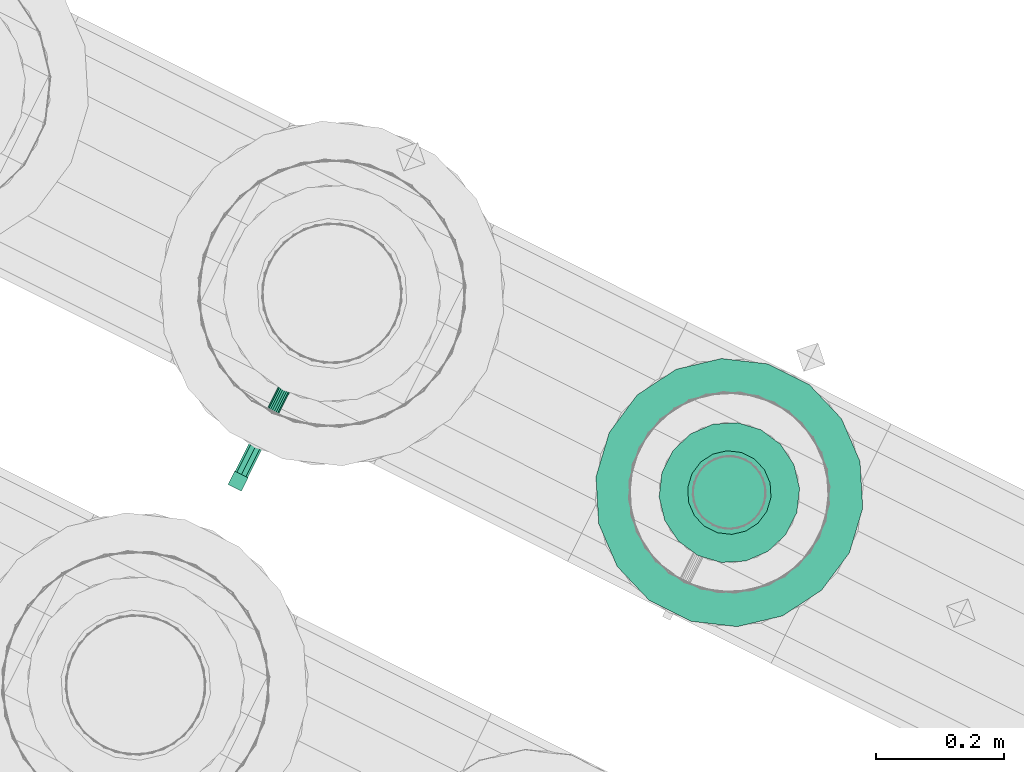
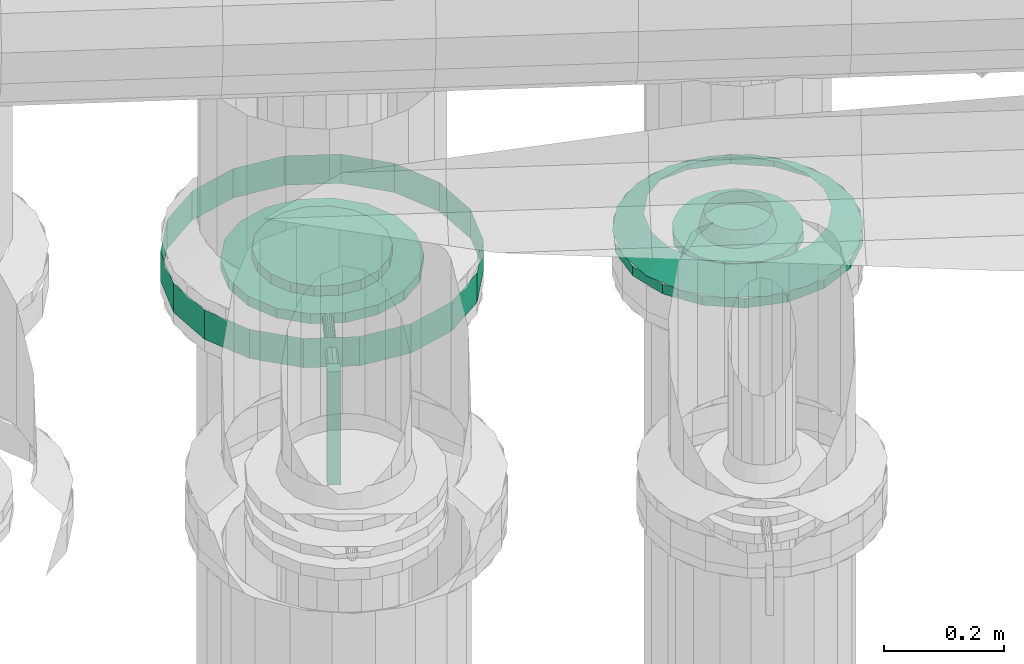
# One storey, part 125 of 152: 1 flow controller, 1 flow fitting.
"""IFC2X3 building model written with IfcOpenShell, lengths in metres."""

from ifc_helpers import new_model, si_unit, derived_unit, direction, frame, origin, place, context, subcontext, project, spatial, face_set, surface_model, source, transform, mapped, material, type_object, type_shapes, element, save


model = new_model("IFC2X3")

# Units and contexts
model_context = context("Model", 3, precision=5.2338327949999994e-05, world=origin(), true_north=direction((0.0, 1.0)))
body_context = subcontext(model_context, "Body", "Model", "MODEL_VIEW")
ifc_project = project(units=[si_unit("LENGTHUNIT", "METRE"), si_unit("AREAUNIT", "SQUARE_METRE"), si_unit("VOLUMEUNIT", "CUBIC_METRE"), si_unit("MASSUNIT", "GRAM", prefix="KILO"), si_unit("PLANEANGLEUNIT", "RADIAN"), derived_unit("THERMALTRANSMITTANCEUNIT", [(si_unit("MASSUNIT", "GRAM", prefix="KILO"), 1), (si_unit("THERMODYNAMICTEMPERATUREUNIT", "KELVIN"), -1), (si_unit("TIMEUNIT", "SECOND"), -3)])], contexts=[model_context])

# Site, building, storey
site_placement = place(None, frame((0.0, 0.0, 0.0), z_axis=(0.0, 0.0, 1.0), x_axis=(0.8939966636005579, -0.4480736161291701, 0.0)))
site = spatial("IfcSite", under=ifc_project, at=site_placement, Name="Default", CompositionType="ELEMENT")
building_placement = place(site_placement, origin())
building = spatial("IfcBuilding", under=site, at=building_placement, CompositionType="ELEMENT")
storey_placement = place(building_placement, frame((0.0, 0.0, 2.7499999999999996)))
storey = spatial("IfcBuildingStorey", under=building, at=storey_placement, Name="1. Obergeschoss", CompositionType="ELEMENT", Elevation=2.7499999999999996)

# Flow fitting
ifc_material = material(Name="IfcSurfaceStyle #1741")
distribution_element_type_1 = type_object("IfcDistributionElementType", Name="Flansch 247248:Flansch 247248", material=ifc_material)
shared_shape_1 = source(origin(), body_context, "Body", "SurfaceModel", [
    surface_model("IfcFaceBasedSurfaceModel", [(7.225468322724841, 8.012208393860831, 5.034622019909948), (7.228914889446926, 8.031754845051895, 5.034622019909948), (7.221068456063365, 8.034610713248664, 5.002622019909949), (7.217118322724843, 8.012208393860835, 5.002622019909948), (7.238838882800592, 8.048943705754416, 5.034622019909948), (7.232442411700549, 8.0543109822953, 5.002622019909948), (7.254043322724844, 8.06170174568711, 5.034622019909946), (7.249868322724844, 8.068933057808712, 5.002622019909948), (7.272694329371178, 8.06849015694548, 5.034622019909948), (7.271244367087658, 8.076713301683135, 5.002622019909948), (7.292542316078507, 8.06849015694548, 5.034622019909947), (7.293992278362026, 8.076713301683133, 5.002622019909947), (7.311193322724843, 8.061701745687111, 5.034622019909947), (7.315368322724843, 8.068933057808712, 5.002622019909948), (7.3263977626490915, 8.04894370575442, 5.034622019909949), (7.332794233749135, 8.054310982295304, 5.002622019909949), (7.336321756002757, 8.031754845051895, 5.034622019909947), (7.344168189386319, 8.034610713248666, 5.002622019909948), (7.33976832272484, 8.012208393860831, 5.034622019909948), (7.34811832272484, 8.012208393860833, 5.002622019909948), (7.336321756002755, 7.99266194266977, 5.034622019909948), (7.344168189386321, 7.989806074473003, 5.002622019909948), (7.326397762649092, 7.975473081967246, 5.034622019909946), (7.332794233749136, 7.970105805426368, 5.002622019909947), (7.311193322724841, 7.962715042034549, 5.034622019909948), (7.31536832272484, 7.955483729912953, 5.002622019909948), (7.292542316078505, 7.955926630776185, 5.034622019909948), (7.293992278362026, 7.9477034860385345, 5.002622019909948), (7.272694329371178, 7.955926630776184, 5.034622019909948), (7.27124436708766, 7.9477034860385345, 5.002622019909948), (7.2540433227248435, 7.962715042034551, 5.034622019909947), (7.249868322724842, 7.955483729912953, 5.002622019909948), (7.238838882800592, 7.975473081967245, 5.034622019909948), (7.232442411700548, 7.970105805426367, 5.002622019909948), (7.228914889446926, 7.99266194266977, 5.034622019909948), (7.221068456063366, 7.989806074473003, 5.002622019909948), (7.282618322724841, 7.902208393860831, 5.002622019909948), (7.244996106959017, 7.908842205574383, 5.002622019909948), (7.244996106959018, 7.9088422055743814, 4.982622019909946), (7.282618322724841, 7.902208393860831, 4.982622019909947), (7.211911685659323, 7.927943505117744, 5.002622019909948), (7.211911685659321, 7.927943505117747, 4.982622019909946), (7.1873555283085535, 7.957208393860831, 5.002622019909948), (7.1873555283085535, 7.957208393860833, 4.982622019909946), (7.1742894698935, 7.9931070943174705, 5.002622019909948), (7.1742894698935, 7.993107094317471, 4.982622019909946), (7.174289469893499, 8.031309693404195, 5.002622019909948), (7.174289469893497, 8.031309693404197, 4.982622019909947), (7.1873555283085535, 8.067208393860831, 5.002622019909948), (7.187355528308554, 8.067208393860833, 4.9826220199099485), (7.211911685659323, 8.09647328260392, 5.002622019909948), (7.211911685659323, 8.096473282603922, 4.982622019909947), (7.244996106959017, 8.115574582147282, 5.002622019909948), (7.244996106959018, 8.115574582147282, 4.982622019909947), (7.282618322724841, 8.122208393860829, 5.002622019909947), (7.282618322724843, 8.12220839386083, 4.982622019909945), (7.320240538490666, 8.115574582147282, 5.002622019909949), (7.320240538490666, 8.115574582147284, 4.982622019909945), (7.353324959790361, 8.09647328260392, 5.002622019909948), (7.353324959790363, 8.096473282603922, 4.982622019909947), (7.37788111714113, 8.067208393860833, 5.002622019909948), (7.377881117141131, 8.067208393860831, 4.9826220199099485), (7.390947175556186, 8.031309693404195, 5.002622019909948), (7.390947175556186, 8.031309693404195, 4.982622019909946), (7.390947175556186, 7.993107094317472, 5.002622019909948), (7.390947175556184, 7.993107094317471, 4.982622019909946), (7.377881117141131, 7.9572083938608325, 5.002622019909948), (7.37788111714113, 7.957208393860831, 4.982622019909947), (7.353324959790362, 7.927943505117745, 5.002622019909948), (7.353324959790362, 7.927943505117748, 4.982622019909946), (7.320240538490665, 7.908842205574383, 5.002622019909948), (7.320240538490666, 7.908842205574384, 4.9826220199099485), (7.282618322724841, 8.012208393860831, 5.002622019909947), (7.125468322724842, 8.012208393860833, 5.034622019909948), (7.134945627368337, 8.065956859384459, 5.034622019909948), (7.0852828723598, 8.084032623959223, 5.002622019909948), (7.07261832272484, 8.012208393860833, 5.002622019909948), (7.162234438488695, 8.113222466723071, 5.034622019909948), (7.121748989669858, 8.147193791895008, 5.002622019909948), (7.204043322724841, 8.148304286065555, 5.034622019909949), (7.177618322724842, 8.194073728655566, 5.00262201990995), (7.255329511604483, 8.1669709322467, 5.034622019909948), (7.246152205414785, 8.219018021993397, 5.002622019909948), (7.309907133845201, 8.1669709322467, 5.034622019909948), (7.3190844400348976, 8.219018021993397, 5.002622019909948), (7.361193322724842, 8.148304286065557, 5.034622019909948), (7.387618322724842, 8.194073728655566, 5.002622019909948), (7.4030022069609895, 8.113222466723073, 5.034622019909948), (7.443487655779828, 8.147193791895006, 5.002622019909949), (7.4302910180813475, 8.065956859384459, 5.034622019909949), (7.479953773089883, 8.084032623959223, 5.002622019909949), (7.4397683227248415, 8.012208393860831, 5.034622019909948), (7.492618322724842, 8.012208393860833, 5.002622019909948), (7.430291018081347, 7.9584599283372, 5.034622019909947), (7.479953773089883, 7.940384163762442, 5.002622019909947), (7.4030022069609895, 7.911194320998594, 5.034622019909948), (7.443487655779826, 7.87722299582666, 5.002622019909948), (7.361193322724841, 7.876112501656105, 5.034622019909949), (7.387618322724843, 7.830343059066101, 5.002622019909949), (7.309907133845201, 7.857445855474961, 5.034622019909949), (7.3190844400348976, 7.805398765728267, 5.002622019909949), (7.255329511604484, 7.857445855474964, 5.034622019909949), (7.246152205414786, 7.805398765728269, 5.002622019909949), (7.204043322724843, 7.876112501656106, 5.034622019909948), (7.177618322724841, 7.830343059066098, 5.002622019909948), (7.162234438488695, 7.91119432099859, 5.034622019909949), (7.121748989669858, 7.877222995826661, 5.002622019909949), (7.134945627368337, 7.958459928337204, 5.034622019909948), (7.085282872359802, 7.940384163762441, 5.002622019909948), (7.282618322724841, 7.802208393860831, 5.002622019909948), (7.210794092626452, 7.814872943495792, 5.002622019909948), (7.210794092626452, 7.814872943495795, 4.982622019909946), (7.282618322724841, 7.802208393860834, 4.982622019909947), (7.14763292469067, 7.851339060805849, 5.002622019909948), (7.14763292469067, 7.851339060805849, 4.982622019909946), (7.100752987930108, 7.907208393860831, 5.002622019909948), (7.100752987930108, 7.907208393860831, 4.982622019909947), (7.075808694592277, 7.975742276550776, 5.002622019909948), (7.07580869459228, 7.975742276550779, 4.9826220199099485), (7.075808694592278, 8.048674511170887, 5.002622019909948), (7.075808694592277, 8.048674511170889, 4.982622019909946), (7.100752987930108, 8.117208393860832, 5.002622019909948), (7.100752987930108, 8.117208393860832, 4.982622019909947), (7.147632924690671, 8.17307772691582, 5.002622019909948), (7.147632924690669, 8.173077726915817, 4.982622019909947), (7.210794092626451, 8.209543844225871, 5.002622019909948), (7.210794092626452, 8.209543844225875, 4.982622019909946), (7.282618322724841, 8.222208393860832, 5.002622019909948), (7.282618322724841, 8.222208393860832, 4.982622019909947), (7.354442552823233, 8.209543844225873, 5.002622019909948), (7.354442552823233, 8.209543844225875, 4.982622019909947), (7.4176037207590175, 8.173077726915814, 5.002622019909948), (7.417603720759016, 8.173077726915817, 4.982622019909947), (7.464483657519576, 8.117208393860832, 5.002622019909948), (7.464483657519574, 8.117208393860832, 4.9826220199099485), (7.489427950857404, 8.048674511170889, 5.002622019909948), (7.489427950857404, 8.048674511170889, 4.982622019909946), (7.4894279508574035, 7.975742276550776, 5.002622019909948), (7.489427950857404, 7.975742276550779, 4.982622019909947), (7.464483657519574, 7.907208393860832, 5.002622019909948), (7.464483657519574, 7.907208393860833, 4.982622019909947), (7.417603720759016, 7.851339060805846, 5.002622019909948), (7.4176037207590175, 7.851339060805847, 4.982622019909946), (7.354442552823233, 7.81487294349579, 5.002622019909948), (7.3544425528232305, 7.814872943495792, 4.982622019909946)], [face_set([[[0, 1, 2, 3]], [[1, 4, 5, 2]], [[4, 6, 7, 5]], [[6, 8, 9, 7]], [[8, 10, 11, 9]], [[10, 12, 13, 11]], [[12, 14, 15, 13]], [[14, 16, 17, 15]], [[16, 18, 19, 17]], [[18, 20, 21, 19]], [[20, 22, 23, 21]], [[22, 24, 25, 23]], [[24, 26, 27, 25]], [[26, 28, 29, 27]], [[28, 30, 31, 29]], [[30, 32, 33, 31]], [[32, 34, 35, 33]], [[34, 0, 3, 35]], [[36, 37, 38, 39]], [[37, 40, 41, 38]], [[40, 42, 43, 41]], [[42, 44, 45, 43]], [[44, 46, 47, 45]], [[46, 48, 49, 47]], [[48, 50, 51, 49]], [[50, 52, 53, 51]], [[52, 54, 55, 53]], [[54, 56, 57, 55]], [[56, 58, 59, 57]], [[58, 60, 61, 59]], [[60, 62, 63, 61]], [[62, 64, 65, 63]], [[64, 66, 67, 65]], [[66, 68, 69, 67]], [[68, 70, 71, 69]], [[70, 36, 39, 71]], [[72, 37, 36]], [[72, 40, 37]], [[72, 42, 40]], [[72, 44, 42]], [[72, 46, 44]], [[72, 48, 46]], [[72, 50, 48]], [[72, 52, 50]], [[72, 54, 52]], [[72, 56, 54]], [[72, 58, 56]], [[72, 60, 58]], [[72, 62, 60]], [[72, 64, 62]], [[72, 66, 64]], [[72, 68, 66]], [[72, 70, 68]], [[72, 36, 70]], [[73, 74, 75, 76]], [[74, 77, 78, 75]], [[77, 79, 80, 78]], [[79, 81, 82, 80]], [[81, 83, 84, 82]], [[83, 85, 86, 84]], [[85, 87, 88, 86]], [[87, 89, 90, 88]], [[89, 91, 92, 90]], [[91, 93, 94, 92]], [[93, 95, 96, 94]], [[95, 97, 98, 96]], [[97, 99, 100, 98]], [[99, 101, 102, 100]], [[101, 103, 104, 102]], [[103, 105, 106, 104]], [[105, 107, 108, 106]], [[107, 73, 76, 108]], [[109, 110, 111, 112]], [[110, 113, 114, 111]], [[113, 115, 116, 114]], [[115, 117, 118, 116]], [[117, 119, 120, 118]], [[119, 121, 122, 120]], [[121, 123, 124, 122]], [[123, 125, 126, 124]], [[125, 127, 128, 126]], [[127, 129, 130, 128]], [[129, 131, 132, 130]], [[131, 133, 134, 132]], [[133, 135, 136, 134]], [[135, 137, 138, 136]], [[137, 139, 140, 138]], [[139, 141, 142, 140]], [[141, 143, 144, 142]], [[143, 109, 112, 144]]])]),
])
type_shapes(distribution_element_type_1, [shared_shape_1])
flow_fitting_placement = place(storey_placement, frame((0.0, 0.0, -2.7499999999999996)))
element("IfcFlowFitting", 1, at=flow_fitting_placement, inside=storey, type_object=distribution_element_type_1, material=ifc_material, Name="Flansch", ObjectType="Flansch", context=body_context, shape_type="MappedRepresentation", body=[
    mapped(shared_shape_1, transform((0.0, 0.0, 0.0), scale=1.0)),
])

# Flow controller
distribution_element_type_2 = type_object("IfcDistributionElementType", Name="Zwischenflanschklappe 247271:Zwischenflanschklappe 247271", material=ifc_material)
shared_shape_2 = source(origin(), body_context, "Body", "SurfaceModel", [
    surface_model("IfcFaceBasedSurfaceModel", [(6.576064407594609, 7.6957083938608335, 4.741522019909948), (6.576064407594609, 7.6957083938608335, 4.9723720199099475), (6.59956440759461, 7.6957083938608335, 4.9723720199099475), (6.59956440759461, 7.6957083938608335, 4.741522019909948), (6.59956440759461, 7.672208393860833, 4.9723720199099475), (6.59956440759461, 7.672208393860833, 4.741522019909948), (6.576064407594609, 7.672208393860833, 4.9723720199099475), (6.576064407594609, 7.672208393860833, 4.741522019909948), (6.705314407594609, 8.012208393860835, 4.930622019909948), (6.698228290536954, 8.0523957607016, 4.930622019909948), (6.698228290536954, 8.0523957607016, 4.9506220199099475), (6.705314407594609, 8.012208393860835, 4.9506220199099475), (6.677824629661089, 8.087735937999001, 4.930622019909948), (6.677824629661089, 8.087735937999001, 4.9506220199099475), (6.646564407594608, 8.113966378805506, 4.930622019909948), (6.646564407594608, 8.113966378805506, 4.9506220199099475), (6.608218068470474, 8.127923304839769, 4.930622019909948), (6.608218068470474, 8.127923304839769, 4.9506220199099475), (6.567410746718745, 8.127923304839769, 4.930622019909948), (6.567410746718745, 8.127923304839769, 4.9506220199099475), (6.529064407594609, 8.113966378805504, 4.930622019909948), (6.529064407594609, 8.113966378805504, 4.9506220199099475), (6.497804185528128, 8.087735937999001, 4.930622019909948), (6.497804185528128, 8.087735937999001, 4.9506220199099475), (6.477400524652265, 8.0523957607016, 4.930622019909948), (6.477400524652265, 8.0523957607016, 4.9506220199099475), (6.47031440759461, 8.012208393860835, 4.930622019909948), (6.47031440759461, 8.012208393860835, 4.9506220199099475), (6.477400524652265, 7.972021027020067, 4.930622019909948), (6.477400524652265, 7.972021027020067, 4.9506220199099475), (6.497804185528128, 7.9366808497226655, 4.930622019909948), (6.497804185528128, 7.9366808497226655, 4.9506220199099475), (6.529064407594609, 7.910450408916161, 4.930622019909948), (6.529064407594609, 7.910450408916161, 4.9506220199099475), (6.567410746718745, 7.896493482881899, 4.930622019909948), (6.567410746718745, 7.896493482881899, 4.9506220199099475), (6.608218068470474, 7.896493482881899, 4.930622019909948), (6.608218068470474, 7.896493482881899, 4.9506220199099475), (6.646564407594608, 7.910450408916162, 4.930622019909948), (6.646564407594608, 7.910450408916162, 4.9506220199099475), (6.677824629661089, 7.9366808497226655, 4.930622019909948), (6.677824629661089, 7.9366808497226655, 4.9506220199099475), (6.698228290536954, 7.972021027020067, 4.930622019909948), (6.698228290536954, 7.972021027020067, 4.9506220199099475), (6.587814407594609, 8.012208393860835, 4.930622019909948), (6.587814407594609, 8.012208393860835, 4.9506220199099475), (6.757814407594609, 8.012208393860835, 4.9506220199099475), (6.7475621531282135, 8.070351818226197, 4.9506220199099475), (6.7475621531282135, 8.070351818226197, 4.970622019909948), (6.757814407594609, 8.012208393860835, 4.970622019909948), (6.718041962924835, 8.121482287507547, 4.9506220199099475), (6.718041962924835, 8.121482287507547, 4.970622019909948), (6.6728144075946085, 8.159432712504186, 4.9506220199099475), (6.6728144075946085, 8.159432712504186, 4.970622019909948), (6.617334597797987, 8.179625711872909, 4.9506220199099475), (6.617334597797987, 8.179625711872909, 4.970622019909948), (6.558294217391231, 8.179625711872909, 4.9506220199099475), (6.558294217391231, 8.179625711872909, 4.970622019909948), (6.502814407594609, 8.159432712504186, 4.9506220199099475), (6.502814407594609, 8.159432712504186, 4.970622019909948), (6.457586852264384, 8.121482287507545, 4.9506220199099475), (6.457586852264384, 8.121482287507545, 4.970622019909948), (6.428066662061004, 8.070351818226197, 4.9506220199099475), (6.428066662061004, 8.070351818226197, 4.970622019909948), (6.4178144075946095, 8.012208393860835, 4.9506220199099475), (6.4178144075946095, 8.012208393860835, 4.970622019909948), (6.428066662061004, 7.9540649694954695, 4.9506220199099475), (6.428066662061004, 7.9540649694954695, 4.970622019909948), (6.457586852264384, 7.902934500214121, 4.9506220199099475), (6.457586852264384, 7.902934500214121, 4.970622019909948), (6.502814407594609, 7.864984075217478, 4.9506220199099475), (6.502814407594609, 7.864984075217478, 4.970622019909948), (6.558294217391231, 7.844791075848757, 4.9506220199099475), (6.558294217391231, 7.844791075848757, 4.970622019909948), (6.6173345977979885, 7.844791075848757, 4.9506220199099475), (6.6173345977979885, 7.844791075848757, 4.970622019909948), (6.6728144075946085, 7.864984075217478, 4.9506220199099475), (6.6728144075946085, 7.864984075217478, 4.970622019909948), (6.718041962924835, 7.902934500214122, 4.9506220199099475), (6.718041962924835, 7.902934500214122, 4.970622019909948), (6.747562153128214, 7.9540649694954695, 4.9506220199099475), (6.747562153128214, 7.9540649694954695, 4.970622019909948), (6.587814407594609, 8.012208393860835, 4.970622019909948), (6.705314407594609, 8.012208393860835, 4.970622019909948), (6.698228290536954, 8.0523957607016, 4.970622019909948), (6.698228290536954, 8.0523957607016, 4.990622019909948), (6.705314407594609, 8.012208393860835, 4.990622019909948), (6.677824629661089, 8.087735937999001, 4.970622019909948), (6.677824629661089, 8.087735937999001, 4.990622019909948), (6.646564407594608, 8.113966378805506, 4.970622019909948), (6.646564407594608, 8.113966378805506, 4.990622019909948), (6.608218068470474, 8.127923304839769, 4.970622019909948), (6.608218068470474, 8.127923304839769, 4.990622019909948), (6.567410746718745, 8.127923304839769, 4.970622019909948), (6.567410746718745, 8.127923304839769, 4.990622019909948), (6.529064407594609, 8.113966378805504, 4.970622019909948), (6.529064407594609, 8.113966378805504, 4.990622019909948), (6.497804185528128, 8.087735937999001, 4.970622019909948), (6.497804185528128, 8.087735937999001, 4.990622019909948), (6.477400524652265, 8.0523957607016, 4.970622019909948), (6.477400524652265, 8.0523957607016, 4.990622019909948), (6.47031440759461, 8.012208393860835, 4.970622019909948), (6.47031440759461, 8.012208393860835, 4.990622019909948), (6.477400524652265, 7.972021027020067, 4.970622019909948), (6.477400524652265, 7.972021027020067, 4.990622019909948), (6.497804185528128, 7.9366808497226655, 4.970622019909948), (6.497804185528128, 7.9366808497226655, 4.990622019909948), (6.529064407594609, 7.910450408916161, 4.970622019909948), (6.529064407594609, 7.910450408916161, 4.990622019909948), (6.567410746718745, 7.896493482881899, 4.970622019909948), (6.567410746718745, 7.896493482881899, 4.990622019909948), (6.608218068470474, 7.896493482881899, 4.970622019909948), (6.608218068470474, 7.896493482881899, 4.990622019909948), (6.646564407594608, 7.910450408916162, 4.970622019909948), (6.646564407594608, 7.910450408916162, 4.990622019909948), (6.677824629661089, 7.9366808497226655, 4.970622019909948), (6.677824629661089, 7.9366808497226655, 4.990622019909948), (6.698228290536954, 7.972021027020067, 4.970622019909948), (6.698228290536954, 7.972021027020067, 4.990622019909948), (6.587814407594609, 8.012208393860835, 4.990622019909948), (6.59781440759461, 8.012208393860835, 4.960622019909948), (6.597211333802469, 8.012208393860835, 4.964042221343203), (6.597211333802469, 7.768958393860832, 4.964042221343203), (6.59781440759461, 7.768958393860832, 4.960622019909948), (6.595474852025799, 8.012208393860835, 4.967049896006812), (6.595474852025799, 7.768958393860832, 4.967049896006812), (6.5928144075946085, 8.012208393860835, 4.969282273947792), (6.5928144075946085, 7.768958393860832, 4.969282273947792), (6.589550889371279, 8.012208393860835, 4.970470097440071), (6.589550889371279, 7.768958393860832, 4.970470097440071), (6.58607792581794, 8.012208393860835, 4.97047009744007), (6.58607792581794, 7.768958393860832, 4.97047009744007), (6.582814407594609, 8.012208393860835, 4.969282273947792), (6.582814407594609, 7.768958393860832, 4.969282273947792), (6.5801539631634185, 8.012208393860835, 4.967049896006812), (6.5801539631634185, 7.768958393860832, 4.967049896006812), (6.578417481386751, 8.012208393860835, 4.964042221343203), (6.578417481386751, 7.768958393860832, 4.964042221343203), (6.577814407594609, 8.012208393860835, 4.960622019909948), (6.577814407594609, 7.768958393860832, 4.960622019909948), (6.578417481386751, 8.012208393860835, 4.957201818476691), (6.578417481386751, 7.768958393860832, 4.957201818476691), (6.5801539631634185, 8.012208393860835, 4.9541941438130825), (6.5801539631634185, 7.768958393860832, 4.9541941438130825), (6.582814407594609, 8.012208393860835, 4.951961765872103), (6.582814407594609, 7.768958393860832, 4.951961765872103), (6.58607792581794, 8.012208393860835, 4.950773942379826), (6.58607792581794, 7.768958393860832, 4.950773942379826), (6.589550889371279, 8.012208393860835, 4.950773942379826), (6.589550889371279, 7.768958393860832, 4.950773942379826), (6.5928144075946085, 8.012208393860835, 4.951961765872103), (6.5928144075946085, 7.768958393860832, 4.951961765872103), (6.595474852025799, 8.012208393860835, 4.9541941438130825), (6.595474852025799, 7.768958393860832, 4.9541941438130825), (6.597211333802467, 8.012208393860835, 4.957201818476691), (6.597211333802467, 7.768958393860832, 4.957201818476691), (6.587814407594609, 8.012208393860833, 4.960622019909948), (6.587814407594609, 7.768958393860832, 4.960622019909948), (6.5987694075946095, 7.768958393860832, 4.960622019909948), (6.595560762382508, 7.768958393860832, 4.968368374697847), (6.595560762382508, 7.6957083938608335, 4.968368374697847), (6.5987694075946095, 7.6957083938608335, 4.960622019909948), (6.587814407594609, 7.768958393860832, 4.971577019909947), (6.587814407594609, 7.6957083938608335, 4.971577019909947), (6.580068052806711, 7.768958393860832, 4.968368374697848), (6.580068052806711, 7.6957083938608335, 4.968368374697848), (6.576859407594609, 7.768958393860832, 4.960622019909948), (6.576859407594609, 7.6957083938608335, 4.960622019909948), (6.580068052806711, 7.768958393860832, 4.952875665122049), (6.580068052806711, 7.6957083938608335, 4.952875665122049), (6.587814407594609, 7.768958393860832, 4.949667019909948), (6.587814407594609, 7.6957083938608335, 4.949667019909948), (6.595560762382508, 7.768958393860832, 4.952875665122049), (6.595560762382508, 7.6957083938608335, 4.952875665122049), (6.587814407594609, 7.6957083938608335, 4.960622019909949), (6.857814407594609, 8.012208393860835, 4.930622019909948), (6.841531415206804, 8.104553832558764, 4.930622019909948), (6.841531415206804, 8.104553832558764, 4.990622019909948), (6.857814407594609, 8.012208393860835, 4.990622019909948), (6.794646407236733, 8.185761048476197, 4.930622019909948), (6.794646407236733, 8.185761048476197, 4.990622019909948), (6.722814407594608, 8.246035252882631, 4.930622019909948), (6.722814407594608, 8.246035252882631, 4.990622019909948), (6.634699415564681, 8.27810648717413, 4.930622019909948), (6.634699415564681, 8.27810648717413, 4.990622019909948), (6.540929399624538, 8.27810648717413, 4.930622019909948), (6.540929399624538, 8.27810648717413, 4.990622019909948), (6.452814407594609, 8.246035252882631, 4.930622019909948), (6.452814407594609, 8.246035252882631, 4.990622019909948), (6.3809824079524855, 8.185761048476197, 4.930622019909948), (6.3809824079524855, 8.185761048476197, 4.990622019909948), (6.334097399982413, 8.104553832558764, 4.930622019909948), (6.334097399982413, 8.104553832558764, 4.990622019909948), (6.317814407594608, 8.012208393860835, 4.930622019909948), (6.317814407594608, 8.012208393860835, 4.990622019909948), (6.334097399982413, 7.919862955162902, 4.930622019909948), (6.334097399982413, 7.919862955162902, 4.990622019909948), (6.380982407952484, 7.838655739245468, 4.930622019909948), (6.380982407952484, 7.838655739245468, 4.990622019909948), (6.452814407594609, 7.778381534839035, 4.930622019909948), (6.452814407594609, 7.778381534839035, 4.990622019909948), (6.540929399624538, 7.746310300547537, 4.930622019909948), (6.540929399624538, 7.746310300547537, 4.990622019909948), (6.634699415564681, 7.746310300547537, 4.930622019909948), (6.634699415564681, 7.746310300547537, 4.990622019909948), (6.722814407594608, 7.778381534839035, 4.930622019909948), (6.722814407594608, 7.778381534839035, 4.990622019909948), (6.794646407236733, 7.838655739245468, 4.930622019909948), (6.794646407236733, 7.838655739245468, 4.990622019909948), (6.841531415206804, 7.919862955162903, 4.930622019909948), (6.841531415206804, 7.919862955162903, 4.990622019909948)], [face_set([[[0, 1, 2, 3]], [[3, 2, 4, 5]], [[5, 4, 6, 7]], [[7, 6, 1, 0]], [[0, 3, 5, 7]], [[6, 4, 2, 1]], [[8, 9, 10, 11]], [[9, 12, 13, 10]], [[12, 14, 15, 13]], [[14, 16, 17, 15]], [[16, 18, 19, 17]], [[18, 20, 21, 19]], [[20, 22, 23, 21]], [[22, 24, 25, 23]], [[24, 26, 27, 25]], [[26, 28, 29, 27]], [[28, 30, 31, 29]], [[30, 32, 33, 31]], [[32, 34, 35, 33]], [[34, 36, 37, 35]], [[36, 38, 39, 37]], [[38, 40, 41, 39]], [[40, 42, 43, 41]], [[42, 8, 11, 43]], [[44, 9, 8]], [[44, 12, 9]], [[44, 14, 12]], [[44, 16, 14]], [[44, 18, 16]], [[44, 20, 18]], [[44, 22, 20]], [[44, 24, 22]], [[44, 26, 24]], [[44, 28, 26]], [[44, 30, 28]], [[44, 32, 30]], [[44, 34, 32]], [[44, 36, 34]], [[44, 38, 36]], [[44, 40, 38]], [[44, 42, 40]], [[44, 8, 42]], [[45, 43, 11]], [[45, 41, 43]], [[45, 39, 41]], [[45, 37, 39]], [[45, 35, 37]], [[45, 33, 35]], [[45, 31, 33]], [[45, 29, 31]], [[45, 27, 29]], [[45, 25, 27]], [[45, 23, 25]], [[45, 21, 23]], [[45, 19, 21]], [[45, 17, 19]], [[45, 15, 17]], [[45, 13, 15]], [[45, 10, 13]], [[45, 11, 10]], [[46, 47, 48, 49]], [[47, 50, 51, 48]], [[50, 52, 53, 51]], [[52, 54, 55, 53]], [[54, 56, 57, 55]], [[56, 58, 59, 57]], [[58, 60, 61, 59]], [[60, 62, 63, 61]], [[62, 64, 65, 63]], [[64, 66, 67, 65]], [[66, 68, 69, 67]], [[68, 70, 71, 69]], [[70, 72, 73, 71]], [[72, 74, 75, 73]], [[74, 76, 77, 75]], [[76, 78, 79, 77]], [[78, 80, 81, 79]], [[80, 46, 49, 81]], [[45, 47, 46]], [[45, 50, 47]], [[45, 52, 50]], [[45, 54, 52]], [[45, 56, 54]], [[45, 58, 56]], [[45, 60, 58]], [[45, 62, 60]], [[45, 64, 62]], [[45, 66, 64]], [[45, 68, 66]], [[45, 70, 68]], [[45, 72, 70]], [[45, 74, 72]], [[45, 76, 74]], [[45, 78, 76]], [[45, 80, 78]], [[45, 46, 80]], [[82, 81, 49]], [[82, 79, 81]], [[82, 77, 79]], [[82, 75, 77]], [[82, 73, 75]], [[82, 71, 73]], [[82, 69, 71]], [[82, 67, 69]], [[82, 65, 67]], [[82, 63, 65]], [[82, 61, 63]], [[82, 59, 61]], [[82, 57, 59]], [[82, 55, 57]], [[82, 53, 55]], [[82, 51, 53]], [[82, 48, 51]], [[82, 49, 48]], [[83, 84, 85, 86]], [[84, 87, 88, 85]], [[87, 89, 90, 88]], [[89, 91, 92, 90]], [[91, 93, 94, 92]], [[93, 95, 96, 94]], [[95, 97, 98, 96]], [[97, 99, 100, 98]], [[99, 101, 102, 100]], [[101, 103, 104, 102]], [[103, 105, 106, 104]], [[105, 107, 108, 106]], [[107, 109, 110, 108]], [[109, 111, 112, 110]], [[111, 113, 114, 112]], [[113, 115, 116, 114]], [[115, 117, 118, 116]], [[117, 83, 86, 118]], [[82, 84, 83]], [[82, 87, 84]], [[82, 89, 87]], [[82, 91, 89]], [[82, 93, 91]], [[82, 95, 93]], [[82, 97, 95]], [[82, 99, 97]], [[82, 101, 99]], [[82, 103, 101]], [[82, 105, 103]], [[82, 107, 105]], [[82, 109, 107]], [[82, 111, 109]], [[82, 113, 111]], [[82, 115, 113]], [[82, 117, 115]], [[82, 83, 117]], [[119, 118, 86]], [[119, 116, 118]], [[119, 114, 116]], [[119, 112, 114]], [[119, 110, 112]], [[119, 108, 110]], [[119, 106, 108]], [[119, 104, 106]], [[119, 102, 104]], [[119, 100, 102]], [[119, 98, 100]], [[119, 96, 98]], [[119, 94, 96]], [[119, 92, 94]], [[119, 90, 92]], [[119, 88, 90]], [[119, 85, 88]], [[119, 86, 85]], [[120, 121, 122, 123]], [[121, 124, 125, 122]], [[124, 126, 127, 125]], [[126, 128, 129, 127]], [[128, 130, 131, 129]], [[130, 132, 133, 131]], [[132, 134, 135, 133]], [[134, 136, 137, 135]], [[136, 138, 139, 137]], [[138, 140, 141, 139]], [[140, 142, 143, 141]], [[142, 144, 145, 143]], [[144, 146, 147, 145]], [[146, 148, 149, 147]], [[148, 150, 151, 149]], [[150, 152, 153, 151]], [[152, 154, 155, 153]], [[154, 120, 123, 155]], [[156, 121, 120]], [[156, 124, 121]], [[156, 126, 124]], [[156, 128, 126]], [[156, 130, 128]], [[156, 132, 130]], [[156, 134, 132]], [[156, 136, 134]], [[156, 138, 136]], [[156, 140, 138]], [[156, 142, 140]], [[156, 144, 142]], [[156, 146, 144]], [[156, 148, 146]], [[156, 150, 148]], [[156, 152, 150]], [[156, 154, 152]], [[156, 120, 154]], [[157, 155, 123]], [[157, 153, 155]], [[157, 151, 153]], [[157, 149, 151]], [[157, 147, 149]], [[157, 145, 147]], [[157, 143, 145]], [[157, 141, 143]], [[157, 139, 141]], [[157, 137, 139]], [[157, 135, 137]], [[157, 133, 135]], [[157, 131, 133]], [[157, 129, 131]], [[157, 127, 129]], [[157, 125, 127]], [[157, 122, 125]], [[157, 123, 122]], [[158, 159, 160, 161]], [[159, 162, 163, 160]], [[162, 164, 165, 163]], [[164, 166, 167, 165]], [[166, 168, 169, 167]], [[168, 170, 171, 169]], [[170, 172, 173, 171]], [[172, 158, 161, 173]], [[174, 173, 161]], [[174, 171, 173]], [[174, 169, 171]], [[174, 167, 169]], [[174, 165, 167]], [[174, 163, 165]], [[174, 160, 163]], [[174, 161, 160]], [[175, 176, 177, 178]], [[176, 179, 180, 177]], [[179, 181, 182, 180]], [[181, 183, 184, 182]], [[183, 185, 186, 184]], [[185, 187, 188, 186]], [[187, 189, 190, 188]], [[189, 191, 192, 190]], [[191, 193, 194, 192]], [[193, 195, 196, 194]], [[195, 197, 198, 196]], [[197, 199, 200, 198]], [[199, 201, 202, 200]], [[201, 203, 204, 202]], [[203, 205, 206, 204]], [[205, 207, 208, 206]], [[207, 209, 210, 208]], [[209, 175, 178, 210]]])]),
])
type_shapes(distribution_element_type_2, [shared_shape_2])
flow_controller_placement = place(storey_placement, frame((0.0, 0.0, -2.7499999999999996)))
element("IfcFlowController", 2, at=flow_controller_placement, inside=storey, type_object=distribution_element_type_2, material=ifc_material, Name="Zwischenflanschklappe", ObjectType="Zwischenflanschklappe", context=body_context, shape_type="MappedRepresentation", body=[
    mapped(shared_shape_2, transform((0.0, 0.0, 0.0), scale=1.0)),
])

save(model, "model.ifc")
